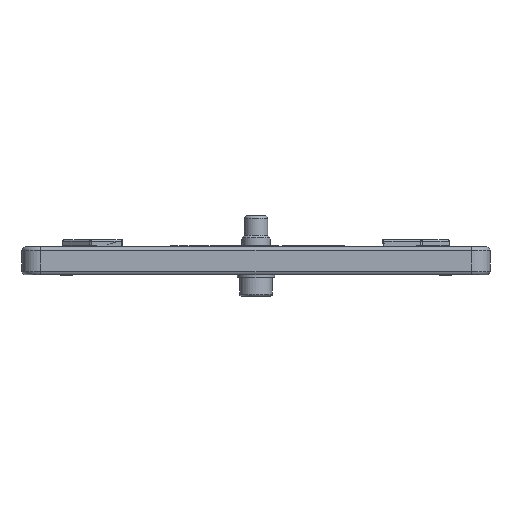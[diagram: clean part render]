
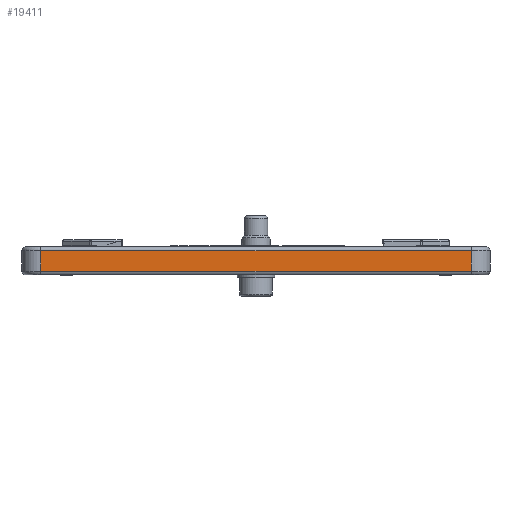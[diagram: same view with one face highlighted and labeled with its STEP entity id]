
A CAD part, front view. The second image highlights one B-rep face of the part: STEP entity #19411.
In plain terms, the highlighted planar face has unit normal (0, -1, 0).
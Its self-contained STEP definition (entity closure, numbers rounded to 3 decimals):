
#3564=FACE_OUTER_BOUND('',#4684,.T.);
#4684=EDGE_LOOP('',(#15358,#15359,#15360,#15361));
#5999=LINE('',#30729,#7498);
#6020=LINE('',#30891,#7519);
#6021=LINE('',#30894,#7520);
#6022=LINE('',#30895,#7521);
#7498=VECTOR('',#24146,10.);
#7519=VECTOR('',#24287,10.);
#7520=VECTOR('',#24290,10.);
#7521=VECTOR('',#24291,10.);
#9150=VERTEX_POINT('',#30722);
#9152=VERTEX_POINT('',#30728);
#9189=VERTEX_POINT('',#30889);
#9190=VERTEX_POINT('',#30893);
#11352=EDGE_CURVE('',#9150,#9152,#5999,.T.);
#11415=EDGE_CURVE('',#9152,#9189,#6020,.T.);
#11416=EDGE_CURVE('',#9189,#9190,#6021,.T.);
#11417=EDGE_CURVE('',#9190,#9150,#6022,.T.);
#15358=ORIENTED_EDGE('',*,*,#11416,.F.);
#15359=ORIENTED_EDGE('',*,*,#11415,.F.);
#15360=ORIENTED_EDGE('',*,*,#11352,.F.);
#15361=ORIENTED_EDGE('',*,*,#11417,.F.);
#18724=PLANE('',#20994);
#19411=ADVANCED_FACE('',(#3564),#18724,.T.);
#20994=AXIS2_PLACEMENT_3D('',#30892,#24288,#24289);
#24146=DIRECTION('',(1.,0.,0.));
#24287=DIRECTION('',(0.,0.,-1.));
#24288=DIRECTION('center_axis',(0.,-1.,0.));
#24289=DIRECTION('ref_axis',(1.,0.,0.));
#24290=DIRECTION('',(-1.,0.,0.));
#24291=DIRECTION('',(0.,0.,1.));
#30722=CARTESIAN_POINT('',(-46.,-94.14,-2.3));
#30728=CARTESIAN_POINT('',(46.,-94.14,-2.3));
#30729=CARTESIAN_POINT('',(38.375,-94.14,-2.3));
#30889=CARTESIAN_POINT('',(46.,-94.14,-6.7));
#30891=CARTESIAN_POINT('',(46.,-94.14,-7.5));
#30892=CARTESIAN_POINT('Origin',(34.5,-94.14,-7.5));
#30893=CARTESIAN_POINT('',(-46.,-94.14,-6.7));
#30894=CARTESIAN_POINT('',(38.375,-94.14,-6.7));
#30895=CARTESIAN_POINT('',(-46.,-94.14,-7.5));
